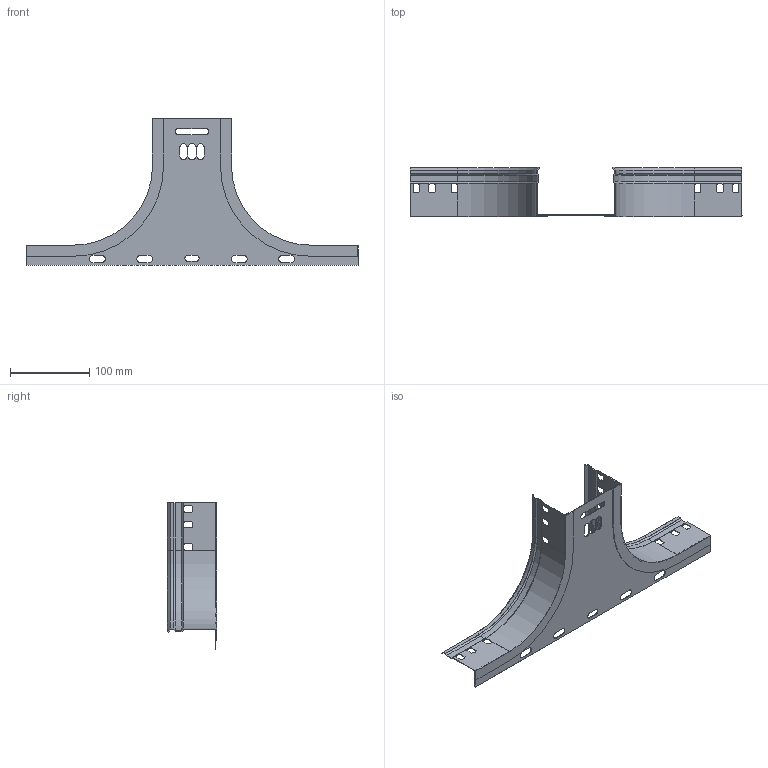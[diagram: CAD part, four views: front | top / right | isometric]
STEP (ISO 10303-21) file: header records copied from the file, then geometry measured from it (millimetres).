
FILE_DESCRIPTION (( 'STEP AP203' ), '1' );
FILE_NAME ('ERE_AS 100x60.step', '2023-07-27T18:50:00', ( '' ), ( '' ), 'SwSTEP 2.0', 'SolidWorks 2022', '' );
FILE_SCHEMA (( 'CONFIG_CONTROL_DESIGN' ));
Length unit declared in the file: millimetre
Products named in the file (3): ERE_AS 100x60; ERE_LATERAL AS_60; ERE_BASE AS_100
Assembly tree (3 placements, depth 2):
  ERE_AS 100x60
    ERE_BASE AS_100
    ERE_LATERAL AS_60  x2
Bounding box: 420 x 62 x 185.5 mm (x, y, z)
Volume: 65511.3 mm3; surface area: 145738 mm2
Topology: 3 solids, 3 shells, 206 faces, 588 edges, 364 vertices
Faces by surface type: plane 128, cylinder 64, cone 14
Entity records: 4603 total; most frequent: CARTESIAN_POINT 754, DIRECTION 746, ORIENTED_EDGE 744, EDGE_CURVE 372, LINE 262, VECTOR 262, AXIS2_PLACEMENT_3D 242, VERTEX_POINT 234
